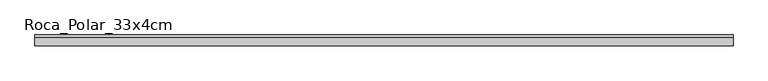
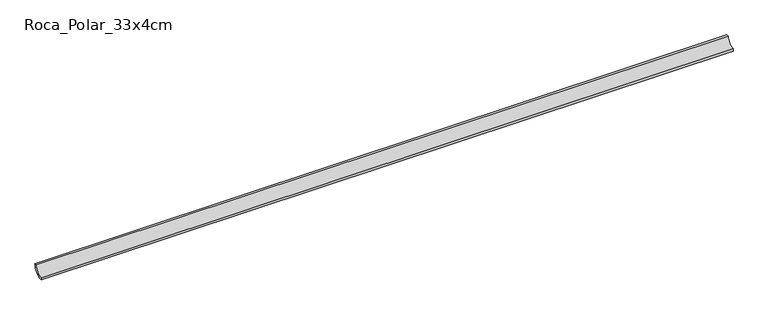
"""IFC4 building model written with IfcOpenShell, lengths in millimetres: proxy geometry, EXAGRES - Piscina Mediacaña : Roca_Polar_33x4cm."""

from ifc_helpers import new_model, si_unit, point, frame, frame_2d, origin, place, context, project, spatial, polyline, circle_curve, trimmed, segment, composite_curve, outline, extrude, source, transform, mapped, element, save


def roca_polar_33x4cm_f0a25715(model_context):
    return source(origin(), model_context, "Body", "SweptSolid", [
        extrude(outline(composite_curve([segment(polyline([(0.0, 23.9), (6.4, 23.9)]), True, "CONTINUOUS"), segment(trimmed(circle_curve(frame_2d((-23.9, 23.9)), 30.3), [point((6.4, 23.9))], [point((-23.9, -6.4))], False, "CARTESIAN"), True, "CONTINUOUS"), segment(polyline([(-23.9, -6.4), (-23.9, 0.0)]), True, "CONTINUOUS"), segment(trimmed(circle_curve(frame_2d((-23.9, 23.9)), 23.9), [point((-23.9, 0.0))], [point((0.0, 23.9))], True, "CARTESIAN"), True, "CONTINUOUS")], self_intersect=False)), frame((0.0, 0.0, 0.0), z_axis=(1.0, 0.0, 0.0), x_axis=(0.0, 1.0, 0.0)), (0.0, 0.0, 1.0), 1976.1),
    ])


if __name__ == "__main__":
    model = new_model("IFC4")
    model_context = context("Model", 3, world=origin())
    ifc_project = project(units=[si_unit("LENGTHUNIT", "METRE", prefix="MILLI")], contexts=[model_context])
    site = spatial("IfcSite", under=ifc_project)
    building = spatial("IfcBuilding", under=site)
    placement = place(None, origin())
    roca_polar_33x4cm_shape = roca_polar_33x4cm_f0a25715(model_context)
    element("IfcBuildingElementProxy", 1, Name="EXAGRES - Piscina Mediacaña : Roca_Polar_33x4cm", ObjectType="EXAGRES - Piscina Mediacaña : Roca_Polar_33x4cm", at=placement, inside=building, context=model_context, shape_type="MappedRepresentation", body=[
        mapped(roca_polar_33x4cm_shape, transform((0.0, 0.0, 0.0), x_axis=(1.0, 0.0, 0.0), y_axis=(0.0, 1.0, 0.0), z_axis=(0.0, 0.0, 1.0))),
    ])
    save(model, "model.ifc")
